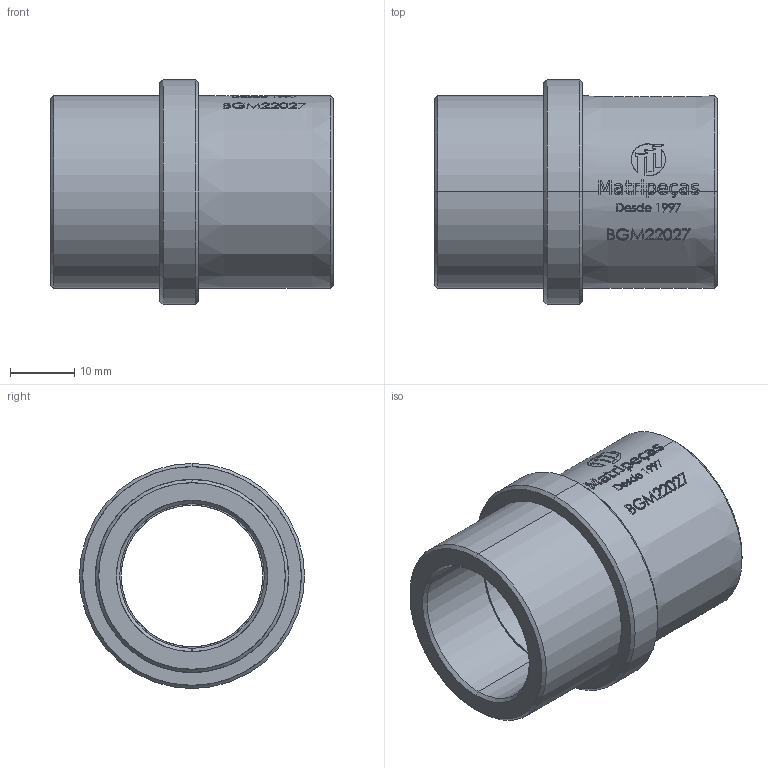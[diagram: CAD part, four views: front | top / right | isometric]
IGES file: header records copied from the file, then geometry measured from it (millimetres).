
Start section: SolidWorks IGES file using analytic representation for surfaces
Global section: file name: E:\1.TRIVECTOR\Clientes\MATRIPEÇAS\PEÇAS_CATALOGO_SITE\2.BGM - BUCHA GUIA E31 (CATÁLOGO)\BGM22027.IGS; native system: SolidWorks 2024; preprocessor: SolidWorks 2024; author: Gabriel Techio; date: 260827.150532; units: millimetre
Bounding box: 44 x 35 x 35 mm (x, y, z)
Surface area: 8331.3 mm2 (no closed solid volume)
Topology: 0 solids, 0 shells, 445 faces, 4618 edges, 4618 vertices
Faces by surface type: bspline 365, revolution 80
